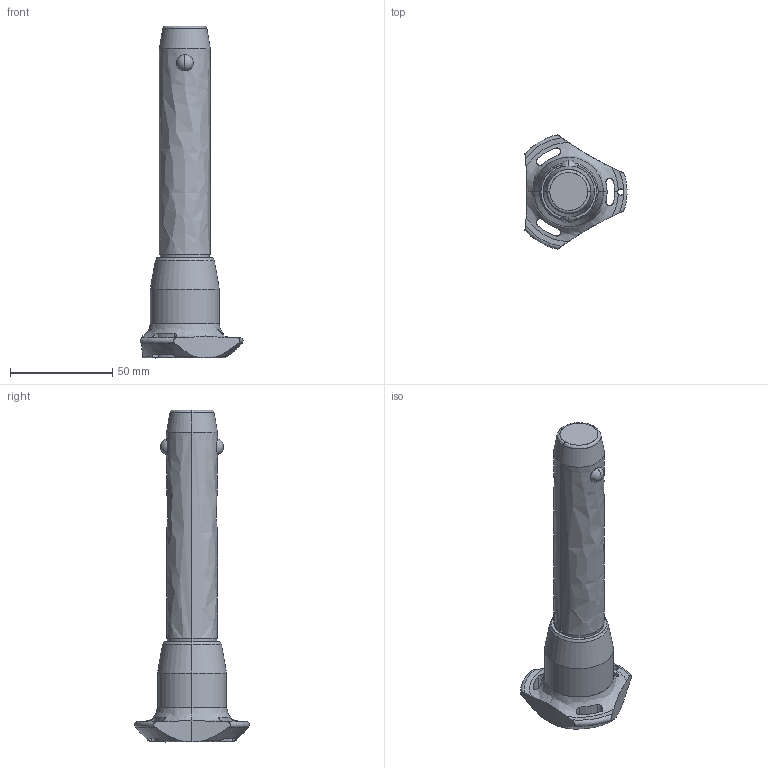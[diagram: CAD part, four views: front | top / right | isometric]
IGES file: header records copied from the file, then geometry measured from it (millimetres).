
Start section: SolidWorks IGES file using analytic representation for surfaces
Global section: file name: C:\Users\ianosborn\Desktop\QR1724_v2\QR1724_v2_20251112_IGES\QR1724.M25-090-S.igs; native system: SolidWorks 2019; preprocessor: SolidWorks 2019; author: IanOsborn; date: 251112.131213; units: millimetre
Bounding box: 50.03 x 56.02 x 162.7 mm (x, y, z)
Surface area: 18517.8 mm2 (no closed solid volume)
Topology: 0 solids, 0 shells, 65 faces, 1310 edges, 1306 vertices
Faces by surface type: revolution 50, bspline 15
